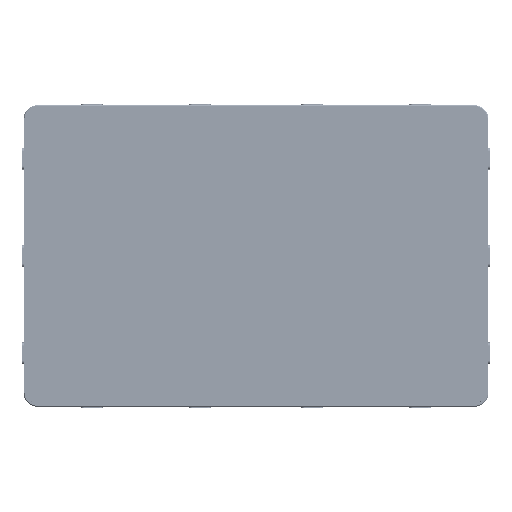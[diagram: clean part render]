
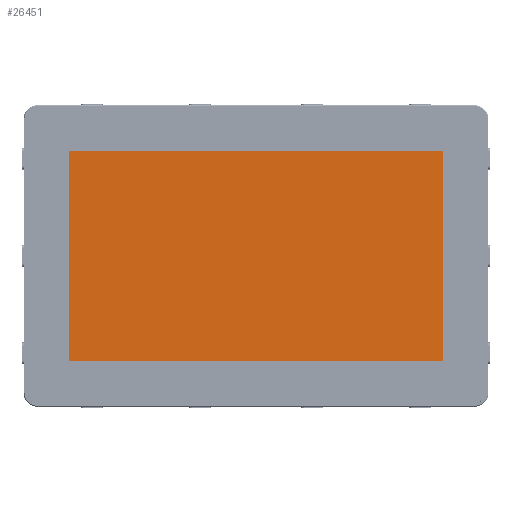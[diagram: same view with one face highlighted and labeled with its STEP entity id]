
A CAD part, top view. The second image highlights one B-rep face of the part: STEP entity #26451.
In plain terms, the highlighted planar face has unit normal (0, 0, 1).
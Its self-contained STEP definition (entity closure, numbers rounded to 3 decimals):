
#15100 = EDGE_CURVE ( 'NONE', #265141, #222187, #73562, .T. ) ;
#20690 = ORIENTED_EDGE ( 'NONE', *, *, #75029, .T. ) ;
#26451 = ADVANCED_FACE ( 'NONE', ( #194434 ), #168248, .F. ) ;
#39189 = EDGE_LOOP ( 'NONE', ( #276954, #113263, #20690, #273794 ) ) ;
#48213 = LINE ( 'NONE', #285885, #207392 ) ;
#69447 = CARTESIAN_POINT ( 'NONE',  ( 172.615, 97.27, 0. ) ) ;
#73562 = LINE ( 'NONE', #240197, #149847 ) ;
#75029 = EDGE_CURVE ( 'NONE', #95746, #265141, #48213, .T. ) ;
#75090 = DIRECTION ( 'NONE',  ( 0., -1., 0. ) ) ;
#87205 = CARTESIAN_POINT ( 'NONE',  ( 172.615, -97.27, 0. ) ) ;
#90597 = VECTOR ( 'NONE', #296209, 1000. ) ;
#93862 = VERTEX_POINT ( 'NONE', #87205 ) ;
#95746 = VERTEX_POINT ( 'NONE', #69447 ) ;
#99147 = CARTESIAN_POINT ( 'NONE',  ( -172.615, -97.27, 0. ) ) ;
#99188 = DIRECTION ( 'NONE',  ( -1., 0., 0. ) ) ;
#103330 = DIRECTION ( 'NONE',  ( -1., 0., 0. ) ) ;
#104626 = EDGE_CURVE ( 'NONE', #93862, #95746, #125553, .T. ) ;
#106481 = CARTESIAN_POINT ( 'NONE',  ( -172.615, -97.27, 0. ) ) ;
#113263 = ORIENTED_EDGE ( 'NONE', *, *, #104626, .T. ) ;
#124998 = DIRECTION ( 'NONE',  ( 0., 0., -1. ) ) ;
#125553 = LINE ( 'NONE', #144143, #154544 ) ;
#132958 = EDGE_CURVE ( 'NONE', #222187, #93862, #202111, .T. ) ;
#138581 = AXIS2_PLACEMENT_3D ( 'NONE', #291553, #124998, #103330 ) ;
#144143 = CARTESIAN_POINT ( 'NONE',  ( 172.615, -97.27, 0. ) ) ;
#149847 = VECTOR ( 'NONE', #75090, 1000. ) ;
#151125 = CARTESIAN_POINT ( 'NONE',  ( -172.615, 97.27, 0. ) ) ;
#154544 = VECTOR ( 'NONE', #198015, 1000. ) ;
#168248 = PLANE ( 'NONE',  #138581 ) ;
#194434 = FACE_OUTER_BOUND ( 'NONE', #39189, .T. ) ;
#198015 = DIRECTION ( 'NONE',  ( 0., 1., 0. ) ) ;
#202111 = LINE ( 'NONE', #106481, #90597 ) ;
#207392 = VECTOR ( 'NONE', #99188, 1000. ) ;
#222187 = VERTEX_POINT ( 'NONE', #99147 ) ;
#240197 = CARTESIAN_POINT ( 'NONE',  ( -172.615, -97.27, 0. ) ) ;
#265141 = VERTEX_POINT ( 'NONE', #151125 ) ;
#273794 = ORIENTED_EDGE ( 'NONE', *, *, #15100, .T. ) ;
#276954 = ORIENTED_EDGE ( 'NONE', *, *, #132958, .T. ) ;
#285885 = CARTESIAN_POINT ( 'NONE',  ( -172.615, 97.27, 0. ) ) ;
#291553 = CARTESIAN_POINT ( 'NONE',  ( -202., -126.5, 0. ) ) ;
#296209 = DIRECTION ( 'NONE',  ( 1., 0., 0. ) ) ;
